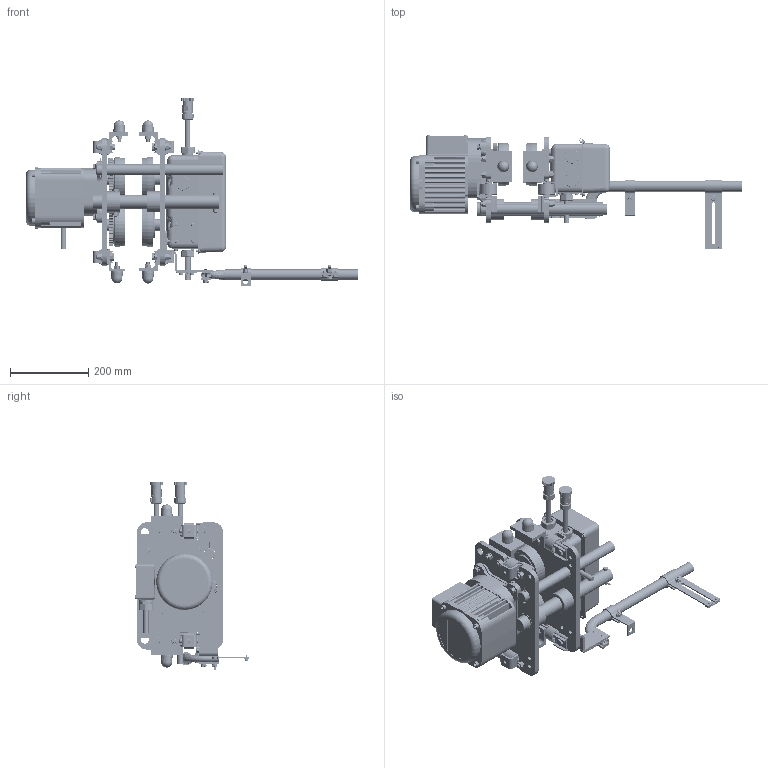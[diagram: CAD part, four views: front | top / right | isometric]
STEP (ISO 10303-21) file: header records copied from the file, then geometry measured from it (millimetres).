
FILE_DESCRIPTION (( 'STEP AP214' ), '1' );
FILE_NAME ('MR2020SD.STEP', '2026-08-10T14:30:45', ( '' ), ( '' ), 'SwSTEP 2.0', 'SolidWorks 2026', '' );
FILE_SCHEMA (( 'AUTOMOTIVE_DESIGN' ));
Length unit declared in the file: inch
Products named in the file (89): 9012711_9012711; 9047120_9047120; 9012513; ECP6912AA; 9093352_9093352; MR1ES22111; Socket Head Cap Screw_AM_B18.3.1M - 5 x 0.8 x 8 Hex SHCS -- 8NHX; 9009432_9009432; E6L614010S; 9009414-5_9009414-5; MR1DS9492; 9093427_9093427; MSF115020; 16-6 (MR2); MR1DS1301; M6F554010; MR1ES9205; MS161020; MR1DS9411; 12-4 (MR2); M6SE020S9102; MS1101020; MR2020SD; MR1DS9401_1 - 8 TON & 10 L TON; ECP5924AB1; MR1DS9501; MR1ES9131; 9093424_9093424; MR1ES9203; MR1DS9421; MR1DS93112; MR1ES12112; 16-6P (MR2); 9093329_9093329; MS006020; MR1DS9325; M7SE020S91422; MS164020; MR1ES92151; MS527010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
Assembly tree (217 placements, depth 5):
  MR2020SD
    MR1ES5202
      MR1ES9202
      MR1ES9203  x2
      MR1ES9205
    MSF115020
    MS1101020  x2
      M6SE020S91013
      6304Z Bearing
      9047252_9047252
    MR1ES5201
      MR1ES9201
      MR1ES9203  x2
      MR1ES9204
    MS1102020  x2
      M6SE020S9102
      6304Z Bearing
      9047252_9047252
    MS006020  x4
    MR1ES12112  x2
      M7SE020S91422
      J1PS31-050025
      MR1ES22111
      MR2DS92171
      MR1ES92151
      MR1ES9218
    MR1ES12112_Reversed  x2
      M7SE020S91422
      J1PS31-050025
      MR1ES22111
      MR2DS92171
      MR1ES92151
      MR1ES9218
    9093351_9093351  x4
    9012712_9012712  x14
    9093427_9093427  x12
    MR1ES9634  x3
    9093352_9093352  x8
    MR1DS9631  x4
    9012711_9012711  x7
    9093424_9093424  x4
    MS161020
    MS164020
    9009432_9009432
    MR1ES9131
    9009446_9009446  x2
    MR2SHM10S9A8
    MR2SHM20S9A7
    Socket Head Cap Screw_AM_B18.3.1M - 5 x 0.8 x 8 Hex SHCS -- 8NHX  x2
    MR1DS1491
      MR1DS9491
      MR1DS9492
      MR1DS9501
      MR1DS1493
        MR1DS9493
        9012711_9012711
        M6F554010  x2
        MR1DS9496
        9093424_9093424
        9093329_9093329
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Bounding box: 848.04 x 291.18 x 481.65 mm (x, y, z)
Volume: 6502136.3 mm3; surface area: 2036678.9 mm2
Topology: 245 solids, 261 shells, 9828 faces, 26050 edges, 16968 vertices
Faces by surface type: plane 4643, cylinder 2713, cone 1328, bspline 628, torus 412, sphere 104
Entity records: 182877 total; most frequent: CARTESIAN_POINT 72975, ORIENTED_EDGE 22686, DIRECTION 21113, EDGE_CURVE 11345, AXIS2_PLACEMENT_3D 7777, VERTEX_POINT 7607, LINE 5559, VECTOR 5559
